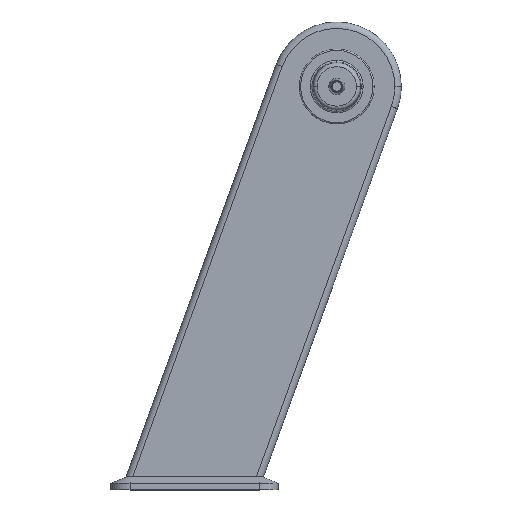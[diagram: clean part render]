
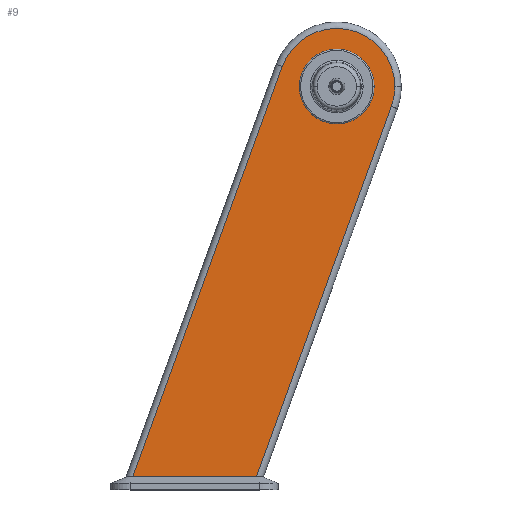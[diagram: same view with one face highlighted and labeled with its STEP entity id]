
A CAD part, top view. The second image highlights one B-rep face of the part: STEP entity #9.
In plain terms, the highlighted planar face has unit normal (0, 0, 1).
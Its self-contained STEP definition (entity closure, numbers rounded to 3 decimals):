
#9 = ADVANCED_FACE ( 'NONE', ( #1083, #556 ), #2463, .T. ) ;
#16 = DIRECTION ( 'NONE',  ( 1., 0., 0. ) ) ;
#157 = EDGE_CURVE ( 'NONE', #2123, #1507, #1858, .T. ) ;
#198 = CARTESIAN_POINT ( 'NONE',  ( -58., 0., 31.25 ) ) ;
#209 = EDGE_CURVE ( 'NONE', #1504, #2123, #1131, .T. ) ;
#230 = VECTOR ( 'NONE', #1502, 1000. ) ;
#303 = CARTESIAN_POINT ( 'NONE',  ( 0., -605., 31.25 ) ) ;
#345 = ORIENTED_EDGE ( 'NONE', *, *, #2072, .T. ) ;
#405 = EDGE_CURVE ( 'NONE', #938, #1504, #755, .T. ) ;
#508 = DIRECTION ( 'NONE',  ( -0.342, -0.94, 0. ) ) ;
#528 = CARTESIAN_POINT ( 'NONE',  ( 0., 0., 31.25 ) ) ;
#530 = EDGE_CURVE ( 'NONE', #2205, #2201, #1032, .T. ) ;
#555 = DIRECTION ( 'NONE',  ( 0., 0., 1. ) ) ;
#556 = FACE_BOUND ( 'NONE', #2329, .T. ) ;
#590 = CARTESIAN_POINT ( 'NONE',  ( 0., 0., 31.25 ) ) ;
#654 = AXIS2_PLACEMENT_3D ( 'NONE', #1769, #555, #1965 ) ;
#728 = EDGE_CURVE ( 'NONE', #1507, #2225, #2206, .T. ) ;
#737 = DIRECTION ( 'NONE',  ( 1., 0., 0. ) ) ;
#745 = AXIS2_PLACEMENT_3D ( 'NONE', #2247, #1035, #2451 ) ;
#755 = LINE ( 'NONE', #1730, #1764 ) ;
#798 = DIRECTION ( 'NONE',  ( 1., 0., 0. ) ) ;
#809 = ORIENTED_EDGE ( 'NONE', *, *, #2496, .F. ) ;
#833 = CARTESIAN_POINT ( 'NONE',  ( 84.572, -30.782, 31.25 ) ) ;
#835 = CARTESIAN_POINT ( 'NONE',  ( 90., 0., 31.25 ) ) ;
#938 = VERTEX_POINT ( 'NONE', #1009 ) ;
#1009 = CARTESIAN_POINT ( 'NONE',  ( -84.572, 30.782, 31.25 ) ) ;
#1032 = CIRCLE ( 'NONE', #654, 58. ) ;
#1035 = DIRECTION ( 'NONE',  ( 0., 0., 1. ) ) ;
#1070 = ORIENTED_EDGE ( 'NONE', *, *, #530, .F. ) ;
#1083 = FACE_OUTER_BOUND ( 'NONE', #2218, .T. ) ;
#1094 = CARTESIAN_POINT ( 'NONE',  ( 84.572, -30.782, 31.25 ) ) ;
#1131 = LINE ( 'NONE', #303, #2209 ) ;
#1425 = CARTESIAN_POINT ( 'NONE',  ( 58., 0., 31.25 ) ) ;
#1460 = DIRECTION ( 'NONE',  ( 0., 0., 1. ) ) ;
#1497 = CIRCLE ( 'NONE', #2202, 90. ) ;
#1500 = ORIENTED_EDGE ( 'NONE', *, *, #728, .T. ) ;
#1502 = DIRECTION ( 'NONE',  ( 0.342, 0.94, 0. ) ) ;
#1504 = VERTEX_POINT ( 'NONE', #2441 ) ;
#1507 = VERTEX_POINT ( 'NONE', #833 ) ;
#1596 = ORIENTED_EDGE ( 'NONE', *, *, #405, .T. ) ;
#1661 = CARTESIAN_POINT ( 'NONE',  ( 0., 0., 31.25 ) ) ;
#1724 = ORIENTED_EDGE ( 'NONE', *, *, #157, .T. ) ;
#1730 = CARTESIAN_POINT ( 'NONE',  ( -324.502, -628.42, 31.25 ) ) ;
#1734 = DIRECTION ( 'NONE',  ( 1., 0., 0. ) ) ;
#1764 = VECTOR ( 'NONE', #508, 1000. ) ;
#1769 = CARTESIAN_POINT ( 'NONE',  ( 0., 0., 31.25 ) ) ;
#1858 = LINE ( 'NONE', #1094, #230 ) ;
#1942 = DIRECTION ( 'NONE',  ( 0., 0., 1. ) ) ;
#1965 = DIRECTION ( 'NONE',  ( 1., 0., 0. ) ) ;
#2003 = DIRECTION ( 'NONE',  ( 0., 0., 1. ) ) ;
#2072 = EDGE_CURVE ( 'NONE', #2225, #938, #1497, .T. ) ;
#2123 = VERTEX_POINT ( 'NONE', #2223 ) ;
#2158 = CIRCLE ( 'NONE', #2239, 58. ) ;
#2163 = AXIS2_PLACEMENT_3D ( 'NONE', #1661, #1460, #16 ) ;
#2201 = VERTEX_POINT ( 'NONE', #1425 ) ;
#2202 = AXIS2_PLACEMENT_3D ( 'NONE', #590, #2003, #798 ) ;
#2205 = VERTEX_POINT ( 'NONE', #198 ) ;
#2206 = CIRCLE ( 'NONE', #745, 90. ) ;
#2209 = VECTOR ( 'NONE', #1734, 1000. ) ;
#2218 = EDGE_LOOP ( 'NONE', ( #1596, #2439, #1724, #1500, #345 ) ) ;
#2223 = CARTESIAN_POINT ( 'NONE',  ( -124.426, -605., 31.25 ) ) ;
#2225 = VERTEX_POINT ( 'NONE', #835 ) ;
#2239 = AXIS2_PLACEMENT_3D ( 'NONE', #528, #1942, #737 ) ;
#2247 = CARTESIAN_POINT ( 'NONE',  ( 0., 0., 31.25 ) ) ;
#2329 = EDGE_LOOP ( 'NONE', ( #809, #1070 ) ) ;
#2439 = ORIENTED_EDGE ( 'NONE', *, *, #209, .T. ) ;
#2441 = CARTESIAN_POINT ( 'NONE',  ( -315.978, -605., 31.25 ) ) ;
#2451 = DIRECTION ( 'NONE',  ( 1., 0., 0. ) ) ;
#2463 = PLANE ( 'NONE',  #2163 ) ;
#2496 = EDGE_CURVE ( 'NONE', #2201, #2205, #2158, .T. ) ;
